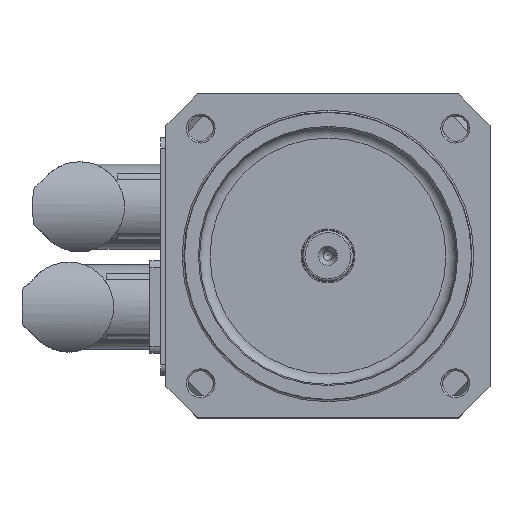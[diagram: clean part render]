
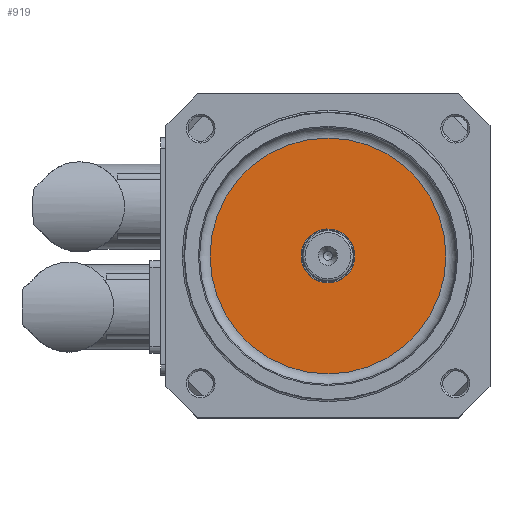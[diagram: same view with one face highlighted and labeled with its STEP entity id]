
A CAD part, top view. The second image highlights one B-rep face of the part: STEP entity #919.
In plain terms, the highlighted planar face has unit normal (0, 0, 1).
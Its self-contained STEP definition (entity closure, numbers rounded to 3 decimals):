
#159=PLANE('',#4624);
#919=ADVANCED_FACE('',(#1184),#159,.F.);
#1184=FACE_OUTER_BOUND('',#1441,.T.);
#1441=EDGE_LOOP('',(#2146));
#1747=CIRCLE('',#4623,32.76);
#2146=ORIENTED_EDGE('',*,*,#3847,.T.);
#3360=VERTEX_POINT('',#6790);
#3847=EDGE_CURVE('',#3360,#3360,#1747,.T.);
#4623=AXIS2_PLACEMENT_3D('',#6789,#5274,#5275);
#4624=AXIS2_PLACEMENT_3D('',#6791,#5276,#5277);
#5274=DIRECTION('',(0.,0.,1.));
#5275=DIRECTION('',(-1.,0.,0.));
#5276=DIRECTION('',(0.,0.,-1.));
#5277=DIRECTION('',(-1.,0.,0.));
#6789=CARTESIAN_POINT('',(0.,0.,29.));
#6790=CARTESIAN_POINT('',(-32.76,0.,29.));
#6791=CARTESIAN_POINT('',(0.,0.,29.));
